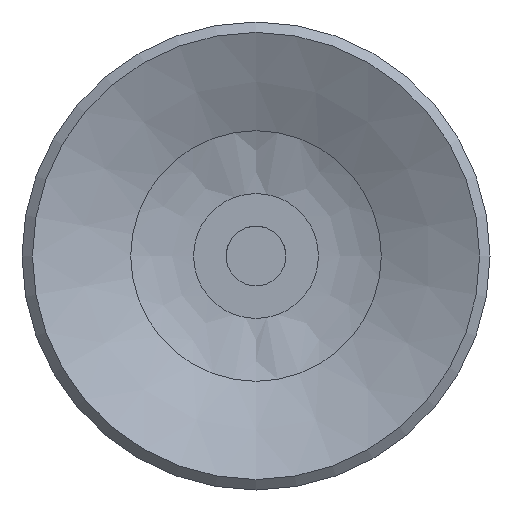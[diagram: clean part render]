
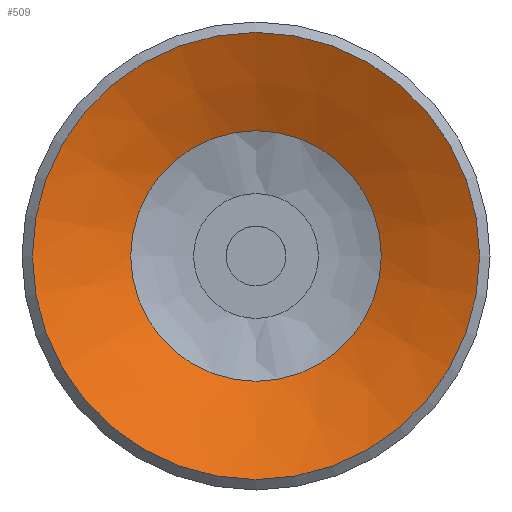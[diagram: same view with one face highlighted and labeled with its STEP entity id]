
A CAD part, front view. The second image highlights one B-rep face of the part: STEP entity #509.
In plain terms, the highlighted conical face has half-angle 65.056 degrees and reference radius 3.2 mm.
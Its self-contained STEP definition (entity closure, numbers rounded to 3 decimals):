
#509=ADVANCED_FACE('',(#789,#790),#791,.F.);
#789=FACE_BOUND('',#1110,.T.);
#790=FACE_OUTER_BOUND('',#1111,.T.);
#791=CONICAL_SURFACE('',#1112,3.2,1.135);
#1110=EDGE_LOOP('',(#1865));
#1111=EDGE_LOOP('',(#1866));
#1112=AXIS2_PLACEMENT_3D('',#1867,#1868,#1869);
#1865=ORIENTED_EDGE('',*,*,#2090,.T.);
#1866=ORIENTED_EDGE('',*,*,#2091,.T.);
#1867=CARTESIAN_POINT('',(0.0,7.896,0.0));
#1868=DIRECTION('',(-0.0,-1.0,0.));
#1869=DIRECTION('',(0.0,0.,-1.0));
#2090=EDGE_CURVE('',#2442,#2442,#2443,.T.);
#2091=EDGE_CURVE('',#2444,#2444,#2445,.T.);
#2442=VERTEX_POINT('',#3222);
#2443=CIRCLE('',#3223,4.203);
#2444=VERTEX_POINT('',#3224);
#2445=CIRCLE('',#3225,7.5);
#3222=CARTESIAN_POINT('',(0.0,7.43,-4.203));
#3223=AXIS2_PLACEMENT_3D('',#3531,#3532,#3533);
#3224=CARTESIAN_POINT('',(0.0,5.896,-7.5));
#3225=AXIS2_PLACEMENT_3D('',#3534,#3535,#3536);
#3531=CARTESIAN_POINT('',(0.0,7.43,0.0));
#3532=DIRECTION('',(0.0,1.0,0.));
#3533=DIRECTION('',(0.0,0.,-1.0));
#3534=CARTESIAN_POINT('',(0.0,5.896,0.0));
#3535=DIRECTION('',(0.0,-1.0,0.));
#3536=DIRECTION('',(0.0,0.,-1.0));
